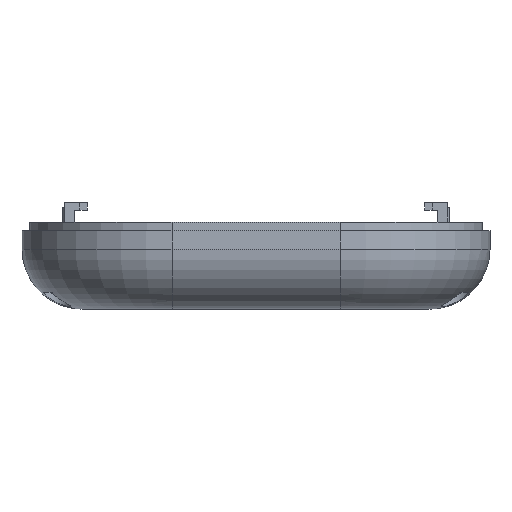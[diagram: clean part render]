
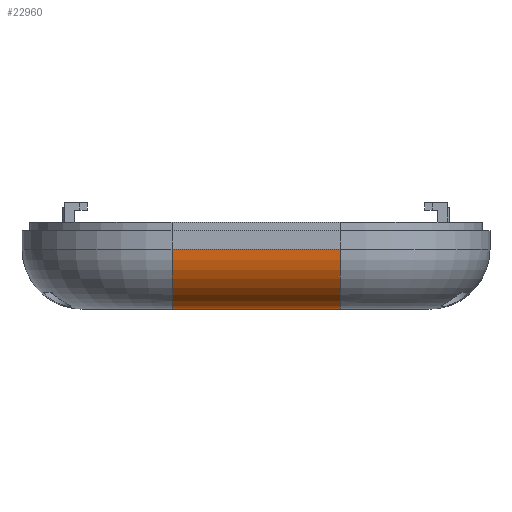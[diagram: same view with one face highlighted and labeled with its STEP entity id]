
A CAD part, front view. The second image highlights one B-rep face of the part: STEP entity #22960.
In plain terms, the highlighted cylindrical face has radius 10 mm (diameter 20 mm), a partial arc.
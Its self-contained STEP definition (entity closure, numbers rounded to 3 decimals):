
#107 = TOROIDAL_SURFACE('',#108,15.,10.);
#108 = AXIS2_PLACEMENT_3D('',#109,#110,#111);
#109 = CARTESIAN_POINT('',(-14.,-50.,-19.5));
#110 = DIRECTION('',(0.,0.,-1.));
#111 = DIRECTION('',(-1.,0.,0.));
#937 = VERTEX_POINT('',#938);
#938 = CARTESIAN_POINT('',(-14.,-65.,-29.5));
#953 = PLANE('',#954);
#954 = AXIS2_PLACEMENT_3D('',#955,#956,#957);
#955 = CARTESIAN_POINT('',(0.,0.,-29.5));
#956 = DIRECTION('',(0.,0.,-1.));
#957 = DIRECTION('',(-1.,0.,0.));
#969 = EDGE_CURVE('',#970,#937,#972,.T.);
#970 = VERTEX_POINT('',#971);
#971 = CARTESIAN_POINT('',(-14.,-75.,-19.5));
#972 = SURFACE_CURVE('',#973,(#978,#985),.PCURVE_S1.);
#973 = CIRCLE('',#974,10.);
#974 = AXIS2_PLACEMENT_3D('',#975,#976,#977);
#975 = CARTESIAN_POINT('',(-14.,-65.,-19.5));
#976 = DIRECTION('',(1.,0.,0.));
#977 = DIRECTION('',(0.,-1.,0.));
#978 = PCURVE('',#107,#979);
#979 = DEFINITIONAL_REPRESENTATION('',(#980),#984);
#980 = LINE('',#981,#982);
#981 = CARTESIAN_POINT('',(4.712,0.));
#982 = VECTOR('',#983,1.);
#983 = DIRECTION('',(0.,1.));
#984 = ( GEOMETRIC_REPRESENTATION_CONTEXT(2) 
PARAMETRIC_REPRESENTATION_CONTEXT() REPRESENTATION_CONTEXT('2D SPACE',''
  ) );
#985 = PCURVE('',#986,#991);
#986 = CYLINDRICAL_SURFACE('',#987,10.);
#987 = AXIS2_PLACEMENT_3D('',#988,#989,#990);
#988 = CARTESIAN_POINT('',(7.,-65.,-19.5));
#989 = DIRECTION('',(-1.,0.,0.));
#990 = DIRECTION('',(0.,-0.707,-0.707)
  );
#991 = DEFINITIONAL_REPRESENTATION('',(#992),#996);
#992 = LINE('',#993,#994);
#993 = CARTESIAN_POINT('',(7.069,21.));
#994 = VECTOR('',#995,1.);
#995 = DIRECTION('',(-1.,0.));
#996 = ( GEOMETRIC_REPRESENTATION_CONTEXT(2) 
PARAMETRIC_REPRESENTATION_CONTEXT() REPRESENTATION_CONTEXT('2D SPACE',''
  ) );
#6119 = VERTEX_POINT('',#6120);
#6120 = CARTESIAN_POINT('',(14.,-65.,-29.5));
#6139 = TOROIDAL_SURFACE('',#6140,15.,10.);
#6140 = AXIS2_PLACEMENT_3D('',#6141,#6142,#6143);
#6141 = CARTESIAN_POINT('',(14.,-50.,-19.5));
#6142 = DIRECTION('',(0.,0.,-1.));
#6143 = DIRECTION('',(-1.,0.,0.));
#6151 = EDGE_CURVE('',#937,#6119,#6152,.T.);
#6152 = SURFACE_CURVE('',#6153,(#6157,#6164),.PCURVE_S1.);
#6153 = LINE('',#6154,#6155);
#6154 = CARTESIAN_POINT('',(7.,-65.,-29.5));
#6155 = VECTOR('',#6156,1.);
#6156 = DIRECTION('',(1.,0.,0.));
#6157 = PCURVE('',#953,#6158);
#6158 = DEFINITIONAL_REPRESENTATION('',(#6159),#6163);
#6159 = LINE('',#6160,#6161);
#6160 = CARTESIAN_POINT('',(-7.,-65.));
#6161 = VECTOR('',#6162,1.);
#6162 = DIRECTION('',(-1.,0.));
#6163 = ( GEOMETRIC_REPRESENTATION_CONTEXT(2) 
PARAMETRIC_REPRESENTATION_CONTEXT() REPRESENTATION_CONTEXT('2D SPACE',''
  ) );
#6164 = PCURVE('',#986,#6165);
#6165 = DEFINITIONAL_REPRESENTATION('',(#6166),#6170);
#6166 = LINE('',#6167,#6168);
#6167 = CARTESIAN_POINT('',(5.498,0.));
#6168 = VECTOR('',#6169,1.);
#6169 = DIRECTION('',(0.,-1.));
#6170 = ( GEOMETRIC_REPRESENTATION_CONTEXT(2) 
PARAMETRIC_REPRESENTATION_CONTEXT() REPRESENTATION_CONTEXT('2D SPACE',''
  ) );
#22960 = ADVANCED_FACE('',(#22961),#986,.T.);
#22961 = FACE_BOUND('',#22962,.T.);
#22962 = EDGE_LOOP('',(#22963,#22964,#22965,#22989));
#22963 = ORIENTED_EDGE('',*,*,#969,.T.);
#22964 = ORIENTED_EDGE('',*,*,#6151,.T.);
#22965 = ORIENTED_EDGE('',*,*,#22966,.F.);
#22966 = EDGE_CURVE('',#22967,#6119,#22969,.T.);
#22967 = VERTEX_POINT('',#22968);
#22968 = CARTESIAN_POINT('',(14.,-75.,-19.5));
#22969 = SURFACE_CURVE('',#22970,(#22975,#22982),.PCURVE_S1.);
#22970 = CIRCLE('',#22971,10.);
#22971 = AXIS2_PLACEMENT_3D('',#22972,#22973,#22974);
#22972 = CARTESIAN_POINT('',(14.,-65.,-19.5));
#22973 = DIRECTION('',(1.,0.,0.));
#22974 = DIRECTION('',(0.,-1.,0.));
#22975 = PCURVE('',#986,#22976);
#22976 = DEFINITIONAL_REPRESENTATION('',(#22977),#22981);
#22977 = LINE('',#22978,#22979);
#22978 = CARTESIAN_POINT('',(7.069,-7.));
#22979 = VECTOR('',#22980,1.);
#22980 = DIRECTION('',(-1.,0.));
#22981 = ( GEOMETRIC_REPRESENTATION_CONTEXT(2) 
PARAMETRIC_REPRESENTATION_CONTEXT() REPRESENTATION_CONTEXT('2D SPACE',''
  ) );
#22982 = PCURVE('',#6139,#22983);
#22983 = DEFINITIONAL_REPRESENTATION('',(#22984),#22988);
#22984 = LINE('',#22985,#22986);
#22985 = CARTESIAN_POINT('',(4.712,0.));
#22986 = VECTOR('',#22987,1.);
#22987 = DIRECTION('',(0.,1.));
#22988 = ( GEOMETRIC_REPRESENTATION_CONTEXT(2) 
PARAMETRIC_REPRESENTATION_CONTEXT() REPRESENTATION_CONTEXT('2D SPACE',''
  ) );
#22989 = ORIENTED_EDGE('',*,*,#22990,.T.);
#22990 = EDGE_CURVE('',#22967,#970,#22991,.T.);
#22991 = SURFACE_CURVE('',#22992,(#22996,#23003),.PCURVE_S1.);
#22992 = LINE('',#22993,#22994);
#22993 = CARTESIAN_POINT('',(7.,-75.,-19.5));
#22994 = VECTOR('',#22995,1.);
#22995 = DIRECTION('',(-1.,0.,0.));
#22996 = PCURVE('',#986,#22997);
#22997 = DEFINITIONAL_REPRESENTATION('',(#22998),#23002);
#22998 = LINE('',#22999,#23000);
#22999 = CARTESIAN_POINT('',(7.069,0.));
#23000 = VECTOR('',#23001,1.);
#23001 = DIRECTION('',(0.,1.));
#23002 = ( GEOMETRIC_REPRESENTATION_CONTEXT(2) 
PARAMETRIC_REPRESENTATION_CONTEXT() REPRESENTATION_CONTEXT('2D SPACE',''
  ) );
#23003 = PCURVE('',#23004,#23009);
#23004 = PLANE('',#23005);
#23005 = AXIS2_PLACEMENT_3D('',#23006,#23007,#23008);
#23006 = CARTESIAN_POINT('',(14.,-75.,-15.));
#23007 = DIRECTION('',(0.,-1.,-0.));
#23008 = DIRECTION('',(-1.,0.,0.));
#23009 = DEFINITIONAL_REPRESENTATION('',(#23010),#23014);
#23010 = LINE('',#23011,#23012);
#23011 = CARTESIAN_POINT('',(7.,4.5));
#23012 = VECTOR('',#23013,1.);
#23013 = DIRECTION('',(1.,0.));
#23014 = ( GEOMETRIC_REPRESENTATION_CONTEXT(2) 
PARAMETRIC_REPRESENTATION_CONTEXT() REPRESENTATION_CONTEXT('2D SPACE',''
  ) );
